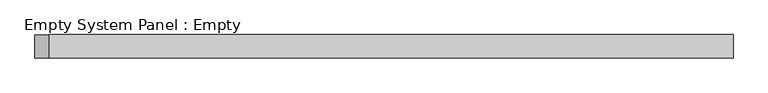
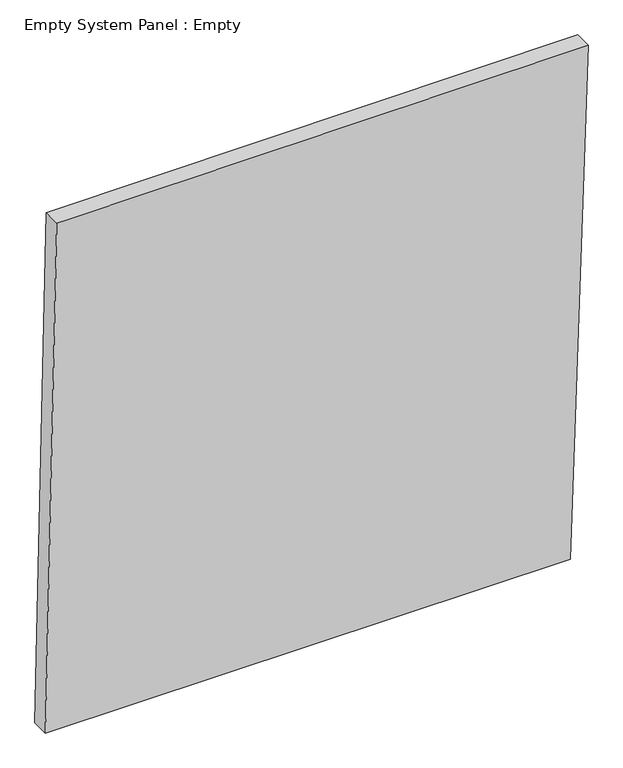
"""IFC4 building model written with IfcOpenShell, lengths in millimetres: plate geometry, Empty System Panel : Empty."""

from ifc_helpers import new_model, si_unit, frame, origin, place, context, project, spatial, polyline, outline, extrude, source, transform, mapped, element, save


def empty_system_panel_empty_c55b79c3(model_context):
    return source(origin(), model_context, "Body", "SweptSolid", [
        extrude(outline(polyline([(0.0, -1516.9769978), (0.0, 1416.2976889), (3003.2220996, 1516.9769978), (2991.7506425, -1453.7058952), (0.0, -1516.9769978)])), frame((0.0, -50.8, 0.0), z_axis=(0.0, 1.0, 0.0), x_axis=(0.0, 0.0, 1.0)), (0.0, 0.0, 1.0), 101.6),
    ])


if __name__ == "__main__":
    model = new_model("IFC4")
    model_context = context("Model", 3, world=origin())
    ifc_project = project(units=[si_unit("LENGTHUNIT", "METRE", prefix="MILLI")], contexts=[model_context])
    site = spatial("IfcSite", under=ifc_project)
    building = spatial("IfcBuilding", under=site)
    placement = place(None, origin())
    empty_system_panel_empty_shape = empty_system_panel_empty_c55b79c3(model_context)
    element("IfcPlate", 1, ObjectType="Empty System Panel : Empty", at=placement, inside=building, context=model_context, shape_type="MappedRepresentation", body=[
        mapped(empty_system_panel_empty_shape, transform((0.0, 0.0, 0.0), x_axis=(1.0, 0.0, 0.0), y_axis=(0.0, 1.0, 0.0), z_axis=(0.0, 0.0, 1.0))),
    ])
    save(model, "model.ifc")
